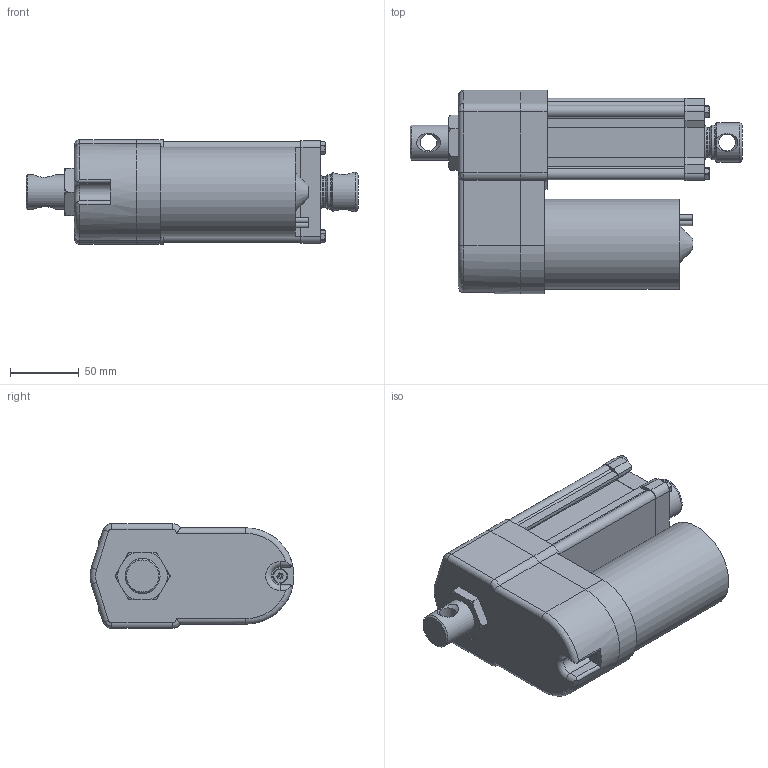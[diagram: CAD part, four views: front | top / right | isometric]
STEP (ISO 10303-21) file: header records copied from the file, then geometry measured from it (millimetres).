
FILE_DESCRIPTION( ( 'STEP AP203' ), '1' );
FILE_NAME( 'p:/temp/worker_517/temp/exporttempdir_4360_890_uMqlO/format_0/DA12-05A65M05M0N-AMM.stp', '2020-04-12T13:15:08', ( 'License CC BY-ND 4.0' ), ( 'CADENAS' ), ' ', 'PARTsolutions', ' ' );
FILE_SCHEMA( ( 'CONFIG_CONTROL_DESIGN' ) );
Length unit declared in the file: millimetre
Products named in the file (8): DA12-05A65M05M0N-AMM; _ELECTRAK-LA14-DA12-05A65MM0N-05M-EU-REAR; _Electrak-10-EU-RA-D602700; _D602768eu; _ELECTRAK-LA14-DA12--MOTOR; _DA12-05A65M05M0NAMMtube; _ELECTRAK-LA14-DA12--05-PLATE; _ELECTRAK-LA14-DA12--0505A65MNM-ROD
Assembly tree (7 placements, depth 2):
  DA12-05A65M05M0N-AMM
    _ELECTRAK-LA14-DA12-05A65MM0N-05M-EU-REAR
    _Electrak-10-EU-RA-D602700
    _D602768eu
    _ELECTRAK-LA14-DA12--MOTOR
    _DA12-05A65M05M0NAMMtube
    _ELECTRAK-LA14-DA12--05-PLATE
    _ELECTRAK-LA14-DA12--0505A65MNM-ROD
Bounding box: 241.05 x 148 x 76.2 mm (x, y, z)
Volume: 1192417.5 mm3; surface area: 192173.2 mm2
Topology: 7 solids, 8 shells, 378 faces, 942 edges, 610 vertices
Faces by surface type: plane 183, cylinder 131, cone 46, torus 14, bspline 4
Full cylindrical faces by diameter (mm): 4 x2, 4.126 x1, 4.8 x6, 5 x5, 5.6 x4, 7.878 x4, 9.398 x1, 12.2 x2, 16 x1, 21.8 x1, 25.2 x1, 25.4 x1, 26.24 x1, 28.5 x1, 28.6 x2, 47.625 x1, 65.3 x1
Entity records: 11834 total; most frequent: CARTESIAN_POINT 2729, DIRECTION 1869, ORIENTED_EDGE 1744, EDGE_CURVE 872, AXIS2_PLACEMENT_3D 702, VERTEX_POINT 602, EDGE_LOOP 485, LINE 465
